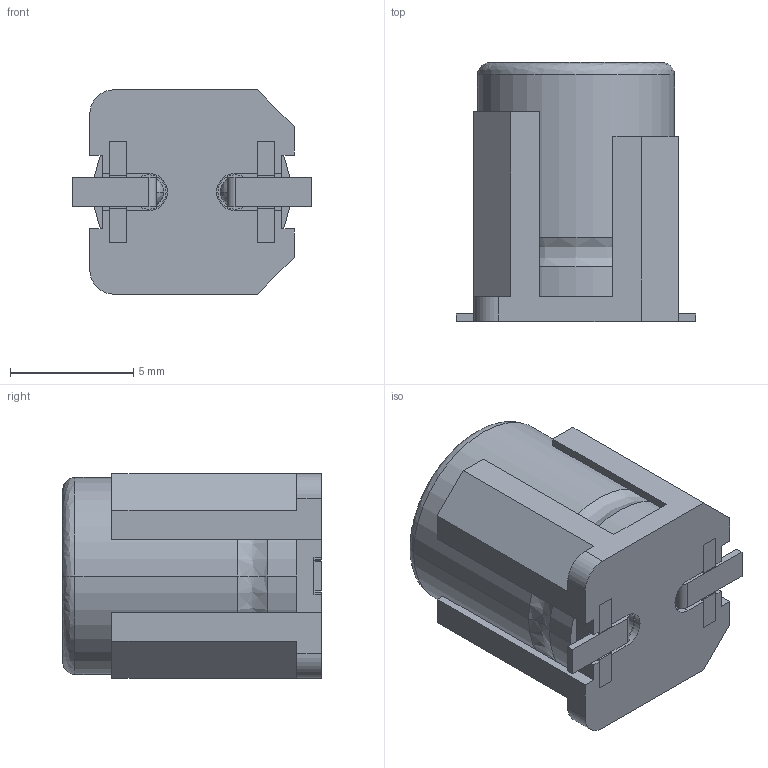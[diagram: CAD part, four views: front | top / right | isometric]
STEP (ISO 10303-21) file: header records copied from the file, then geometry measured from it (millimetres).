
FILE_DESCRIPTION (( 'STEP AP214' ), '1' );
FILE_NAME ('EEETPA331UAV.STEP', '2021-07-07T16:55:54', ( '' ), ( '' ), 'SwSTEP 2.0', 'SolidWorks 2017', '' );
FILE_SCHEMA (( 'AUTOMOTIVE_DESIGN' ));
Length unit declared in the file: millimetre
Products named in the file (1): EEETPA331UAV
Bounding box: 9.7 x 10.5 x 8.3 mm (x, y, z)
Volume: 604.3 mm3; surface area: 779.2 mm2
Topology: 6 solids, 6 shells, 147 faces, 385 edges, 242 vertices
Faces by surface type: plane 112, cylinder 23, bspline 12
Entity records: 6234 total; most frequent: CARTESIAN_POINT 953, ORIENTED_EDGE 754, DIRECTION 718, EDGE_CURVE 377, LINE 304, VECTOR 304, VERTEX_POINT 242, AXIS2_PLACEMENT_3D 207
